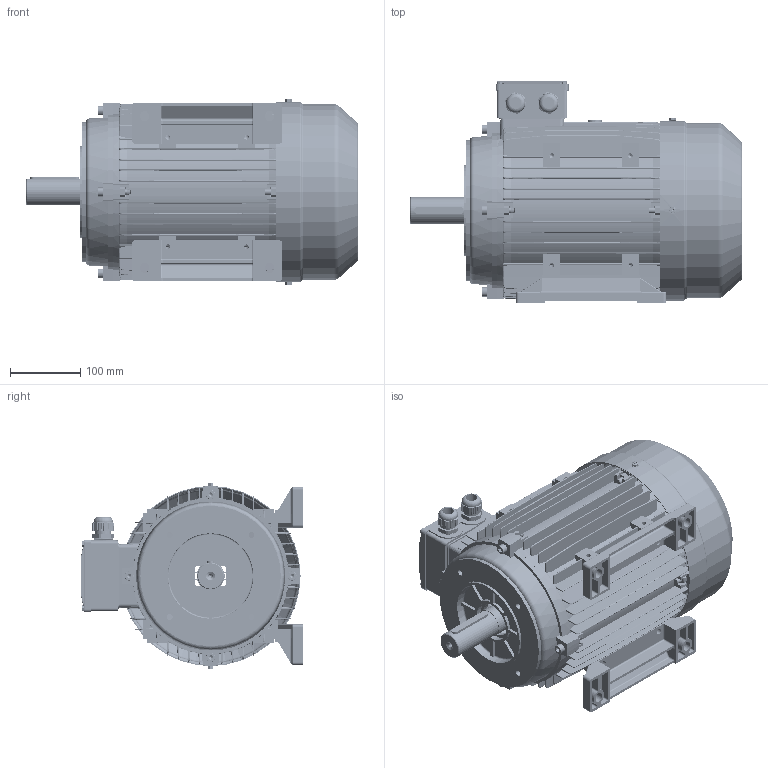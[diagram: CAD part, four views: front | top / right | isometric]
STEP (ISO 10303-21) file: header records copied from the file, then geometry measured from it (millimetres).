
FILE_DESCRIPTION (( 'STEP AP203' ), '1' );
FILE_NAME ('MSL132M assembly B34.STEP', '2017-11-26T10:14:42', ( 'user' ), ( 'china' ), 'SwSTEP 2.0', 'SolidWorks 2016', '' );
FILE_SCHEMA (( 'CONFIG_CONTROL_DESIGN' ));
Length unit declared in the file: millimetre
Products named in the file (17): GB-T 5780-2000 M8_040; MS132 綴裔瑞欶郪磁; M132-Shaft drive end_DNF; GB-T 29.2-1988 M4鞠褒坋趼湍菜_05; M132傷裔B3_NonDrive; M112-132諉盄碟(苤); MS132諉盄碟裔(苤); M132傷裔B14 ; GB-T 70.1-2000 M8_40; M132菁褐(等謂)_M; MS132諉盄碟釱(苤)_2Holes; GB-T 29.2-1988 M5鞠褒坋趼湍菜_10; M132瑞欶_117; M132儂褲_M; M25 cable gland; GB-T 41-2000 M8; MSL132M assembly B34
Assembly tree (36 placements, depth 3):
  MSL132M assembly B34
    M132儂褲_M
    M132-Shaft drive end_DNF
    M132菁褐(等謂)_M  x2
    MS132 綴裔瑞欶郪磁
      M132傷裔B3_NonDrive
      M132瑞欶_117
      GB-T 29.2-1988 M5鞠褒坋趼湍菜_10  x3
    GB-T 41-2000 M8  x8
    GB-T 70.1-2000 M8_40  x4
    M112-132諉盄碟(苤)
      MS132諉盄碟釱(苤)_2Holes
      MS132諉盄碟裔(苤)
      GB-T 29.2-1988 M4鞠褒坋趼湍菜_05  x4
      M25 cable gland  x2
    GB-T 5780-2000 M8_040  x4
    M132傷裔B14 
Bounding box: 473 x 317 x 264.6 mm (x, y, z)
Volume: 2784430.2 mm3; surface area: 1479292.3 mm2
Topology: 36 solids, 36 shells, 5733 faces, 15051 edges, 9431 vertices
Faces by surface type: plane 2413, cylinder 1498, cone 1064, bspline 604, torus 142, sphere 12
Entity records: 160830 total; most frequent: CARTESIAN_POINT 63334, ORIENTED_EDGE 21168, DIRECTION 17877, EDGE_CURVE 10584, VERTEX_POINT 6763, LINE 6131, VECTOR 6131, AXIS2_PLACEMENT_3D 5873
